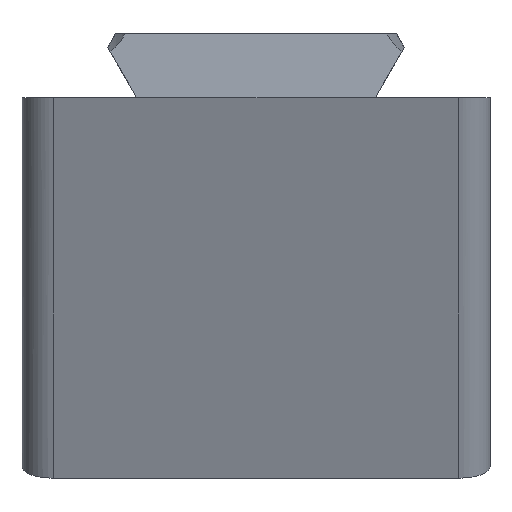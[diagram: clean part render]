
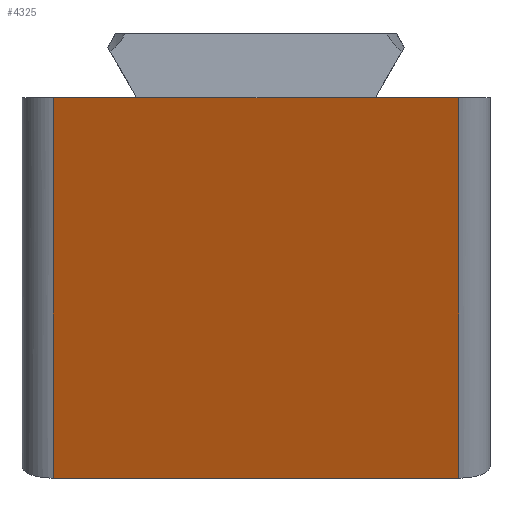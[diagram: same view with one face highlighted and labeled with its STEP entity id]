
A CAD part, left-side view. The second image highlights one B-rep face of the part: STEP entity #4325.
In plain terms, the highlighted planar face has unit normal (-0.934, 0, -0.358).
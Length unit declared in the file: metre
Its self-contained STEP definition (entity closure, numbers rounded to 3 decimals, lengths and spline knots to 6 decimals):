
#604=ORIENTED_EDGE('',*,*,#1702,.T.);
#605=ORIENTED_EDGE('',*,*,#1879,.T.);
#606=ORIENTED_EDGE('',*,*,#1634,.F.);
#607=ORIENTED_EDGE('',*,*,#1880,.T.);
#608=ORIENTED_EDGE('',*,*,#1714,.T.);
#609=ORIENTED_EDGE('',*,*,#1875,.T.);
#1634=EDGE_CURVE('',#2287,#2288,#2722,.T.);
#1702=EDGE_CURVE('',#2346,#2353,#2765,.T.);
#1714=EDGE_CURVE('',#2362,#2338,#2771,.T.);
#1875=EDGE_CURVE('',#2338,#2346,#2857,.T.);
#1879=EDGE_CURVE('',#2353,#2288,#2858,.T.);
#1880=EDGE_CURVE('',#2287,#2362,#2859,.F.);
#2287=VERTEX_POINT('',#5960);
#2288=VERTEX_POINT('',#5962);
#2338=VERTEX_POINT('',#6069);
#2346=VERTEX_POINT('',#6087);
#2353=VERTEX_POINT('',#6104);
#2362=VERTEX_POINT('',#6126);
#2722=LINE('',#5961,#3167);
#2765=LINE('',#6105,#3210);
#2771=LINE('',#6125,#3216);
#2857=LINE('',#6526,#3302);
#2858=LINE('',#6536,#3303);
#2859=LINE('',#6537,#3304);
#3167=VECTOR('',#4888,1.);
#3210=VECTOR('',#5001,1.);
#3216=VECTOR('',#5019,1.);
#3302=VECTOR('',#5185,1.);
#3303=VECTOR('',#5200,1.);
#3304=VECTOR('',#5201,1.);
#3651=EDGE_LOOP('',(#604,#605,#606,#607,#608,#609));
#3928=FACE_BOUND('',#3651,.T.);
#4178=PLANE('',#4651);
#4325=ADVANCED_FACE('',(#3928),#4178,.F.);
#4651=AXIS2_PLACEMENT_3D('',#6535,#5198,#5199);
#4888=DIRECTION('',(0.,1.,0.));
#5001=DIRECTION('',(0.,1.,0.));
#5019=DIRECTION('',(0.,1.,0.));
#5185=DIRECTION('',(0.,1.,0.));
#5198=DIRECTION('',(0.934,0.,0.358));
#5199=DIRECTION('',(0.358,0.,-0.934));
#5200=DIRECTION('',(0.358,0.,-0.934));
#5201=DIRECTION('',(0.358,0.,-0.934));
#5960=CARTESIAN_POINT('',(0.009358,-0.013,-0.024378));
#5961=CARTESIAN_POINT('',(0.009358,-0.015,-0.024378));
#5962=CARTESIAN_POINT('',(0.009358,0.013,-0.024378));
#6069=CARTESIAN_POINT('',(0.,-0.007695,0.));
#6087=CARTESIAN_POINT('',(0.,0.007695,0.));
#6104=CARTESIAN_POINT('',(0.,0.013,0.));
#6105=CARTESIAN_POINT('',(0.,-0.015,0.));
#6125=CARTESIAN_POINT('',(0.,-0.015,0.));
#6126=CARTESIAN_POINT('',(0.,-0.013,0.));
#6526=CARTESIAN_POINT('',(0.,0.,0.));
#6535=CARTESIAN_POINT('',(0.004679,-0.015,-0.012189));
#6536=CARTESIAN_POINT('',(0.004679,0.013,-0.012189));
#6537=CARTESIAN_POINT('',(0.,-0.013,0.));
